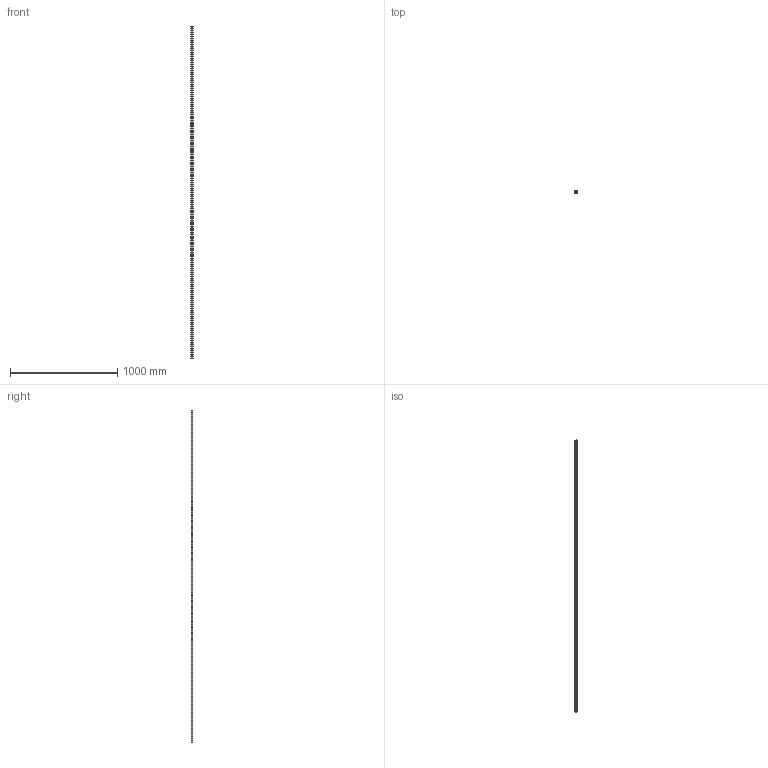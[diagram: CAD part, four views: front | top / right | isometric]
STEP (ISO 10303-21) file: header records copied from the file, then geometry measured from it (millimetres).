
FILE_DESCRIPTION (( 'STEP AP203' ), '1' );
FILE_NAME ('L1016.BL20-3100.step', '2019-06-12T11:55:41', ( '' ), ( '' ), 'SwSTEP 2.0', 'SolidWorks 2017', '' );
FILE_SCHEMA (( 'CONFIG_CONTROL_DESIGN' ));
Length unit declared in the file: millimetre
Products named in the file (1): L1016.BL20-3100
Bounding box: 20 x 16.3 x 3100 mm (x, y, z)
Volume: 861727.9 mm3; surface area: 249314.2 mm2
Topology: 1 solids, 1 shells, 286 faces, 696 edges, 464 vertices
Faces by surface type: cylinder 212, plane 74
Entity records: 8909 total; most frequent: DIRECTION 1694, CARTESIAN_POINT 1447, ORIENTED_EDGE 1392, AXIS2_PLACEMENT_3D 711, EDGE_CURVE 696, VERTEX_POINT 464, EDGE_LOOP 442, CIRCLE 424
